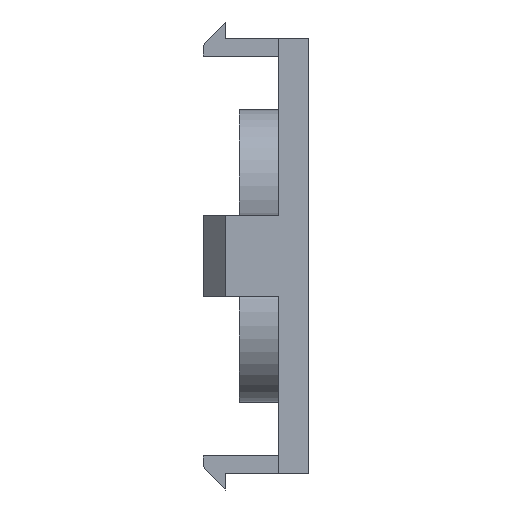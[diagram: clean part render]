
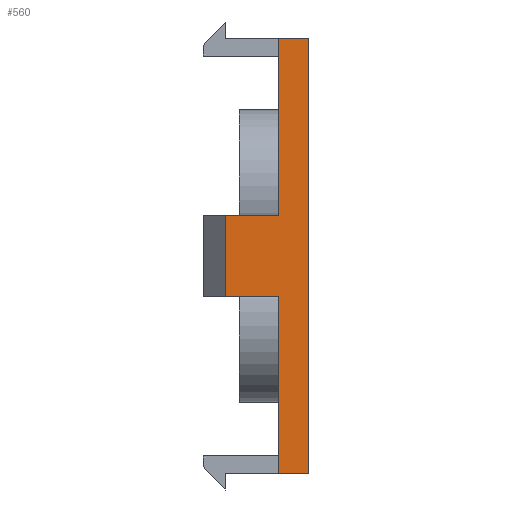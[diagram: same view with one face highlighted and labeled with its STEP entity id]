
A CAD part, left-side view. The second image highlights one B-rep face of the part: STEP entity #560.
In plain terms, the highlighted planar face has unit normal (-1, 0, 0).
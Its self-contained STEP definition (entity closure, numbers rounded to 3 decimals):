
#40 = ORIENTED_EDGE ( 'NONE', *, *, #375, .F. ) ;
#48 = CARTESIAN_POINT ( 'NONE',  ( -24.71, 5.65, -2.75 ) ) ;
#117 = DIRECTION ( 'NONE',  ( 0., 0., -1. ) ) ;
#133 = CARTESIAN_POINT ( 'NONE',  ( -24.71, 2.05, -2.75 ) ) ;
#162 = VERTEX_POINT ( 'NONE', #875 ) ;
#196 = CARTESIAN_POINT ( 'NONE',  ( -24.71, 5.65, 2.75 ) ) ;
#261 = EDGE_LOOP ( 'NONE', ( #2216, #2242, #277, #886, #491, #519, #40, #266 ) ) ;
#266 = ORIENTED_EDGE ( 'NONE', *, *, #776, .F. ) ;
#275 = VERTEX_POINT ( 'NONE', #133 ) ;
#277 = ORIENTED_EDGE ( 'NONE', *, *, #841, .T. ) ;
#282 = VECTOR ( 'NONE', #1437, 1000. ) ;
#292 = VERTEX_POINT ( 'NONE', #48 ) ;
#347 = EDGE_CURVE ( 'NONE', #1155, #987, #1823, .T. ) ;
#375 = EDGE_CURVE ( 'NONE', #162, #1043, #799, .T. ) ;
#415 = LINE ( 'NONE', #1429, #282 ) ;
#434 = CARTESIAN_POINT ( 'NONE',  ( -24.71, 2.05, -14.7 ) ) ;
#491 = ORIENTED_EDGE ( 'NONE', *, *, #347, .T. ) ;
#519 = ORIENTED_EDGE ( 'NONE', *, *, #1497, .T. ) ;
#560 = ADVANCED_FACE ( 'NONE', ( #2074 ), #2323, .F. ) ;
#662 = VECTOR ( 'NONE', #1056, 1000. ) ;
#707 = CARTESIAN_POINT ( 'NONE',  ( -24.71, 0., 14.7 ) ) ;
#741 = LINE ( 'NONE', #1592, #2303 ) ;
#745 = EDGE_CURVE ( 'NONE', #1155, #275, #2198, .T. ) ;
#767 = VECTOR ( 'NONE', #117, 1000. ) ;
#776 = EDGE_CURVE ( 'NONE', #1724, #162, #741, .T. ) ;
#799 = LINE ( 'NONE', #2005, #1761 ) ;
#841 = EDGE_CURVE ( 'NONE', #292, #275, #415, .T. ) ;
#845 = CARTESIAN_POINT ( 'NONE',  ( -24.71, 0., -14.7 ) ) ;
#875 = CARTESIAN_POINT ( 'NONE',  ( -24.71, 2.05, 14.7 ) ) ;
#886 = ORIENTED_EDGE ( 'NONE', *, *, #745, .F. ) ;
#891 = VERTEX_POINT ( 'NONE', #1222 ) ;
#982 = VECTOR ( 'NONE', #1726, 1000. ) ;
#987 = VERTEX_POINT ( 'NONE', #845 ) ;
#1043 = VERTEX_POINT ( 'NONE', #707 ) ;
#1056 = DIRECTION ( 'NONE',  ( 0., 0., 1. ) ) ;
#1151 = LINE ( 'NONE', #1294, #662 ) ;
#1155 = VERTEX_POINT ( 'NONE', #434 ) ;
#1222 = CARTESIAN_POINT ( 'NONE',  ( -24.71, 5.65, 2.75 ) ) ;
#1294 = CARTESIAN_POINT ( 'NONE',  ( -24.71, 0., -14.7 ) ) ;
#1324 = VECTOR ( 'NONE', #2118, 1000. ) ;
#1348 = LINE ( 'NONE', #196, #767 ) ;
#1429 = CARTESIAN_POINT ( 'NONE',  ( -24.71, 7.15, -2.75 ) ) ;
#1437 = DIRECTION ( 'NONE',  ( 0., -1., 0. ) ) ;
#1497 = EDGE_CURVE ( 'NONE', #987, #1043, #1151, .T. ) ;
#1575 = DIRECTION ( 'NONE',  ( 0., 0., 1. ) ) ;
#1592 = CARTESIAN_POINT ( 'NONE',  ( -24.71, 2.05, -14.7 ) ) ;
#1658 = DIRECTION ( 'NONE',  ( 0., 0., 1. ) ) ;
#1682 = EDGE_CURVE ( 'NONE', #891, #292, #1348, .T. ) ;
#1707 = CARTESIAN_POINT ( 'NONE',  ( -24.71, 2.05, -14.7 ) ) ;
#1724 = VERTEX_POINT ( 'NONE', #2415 ) ;
#1726 = DIRECTION ( 'NONE',  ( 0., -1., 0. ) ) ;
#1735 = CARTESIAN_POINT ( 'NONE',  ( -24.71, 7.15, 2.75 ) ) ;
#1761 = VECTOR ( 'NONE', #1982, 1000. ) ;
#1803 = LINE ( 'NONE', #1735, #982 ) ;
#1823 = LINE ( 'NONE', #2321, #1324 ) ;
#1982 = DIRECTION ( 'NONE',  ( 0., -1., 0. ) ) ;
#2005 = CARTESIAN_POINT ( 'NONE',  ( -24.71, 2.05, 14.7 ) ) ;
#2074 = FACE_OUTER_BOUND ( 'NONE', #261, .T. ) ;
#2101 = EDGE_CURVE ( 'NONE', #891, #1724, #1803, .T. ) ;
#2118 = DIRECTION ( 'NONE',  ( 0., -1., 0. ) ) ;
#2130 = VECTOR ( 'NONE', #1658, 1000. ) ;
#2198 = LINE ( 'NONE', #1707, #2130 ) ;
#2216 = ORIENTED_EDGE ( 'NONE', *, *, #2101, .F. ) ;
#2242 = ORIENTED_EDGE ( 'NONE', *, *, #1682, .T. ) ;
#2296 = DIRECTION ( 'NONE',  ( 0., 0., -1. ) ) ;
#2297 = AXIS2_PLACEMENT_3D ( 'NONE', #2335, #2308, #2296 ) ;
#2303 = VECTOR ( 'NONE', #1575, 1000. ) ;
#2308 = DIRECTION ( 'NONE',  ( 1., 0., 0. ) ) ;
#2321 = CARTESIAN_POINT ( 'NONE',  ( -24.71, 2.05, -14.7 ) ) ;
#2323 = PLANE ( 'NONE',  #2297 ) ;
#2335 = CARTESIAN_POINT ( 'NONE',  ( -24.71, 2.05, -14.7 ) ) ;
#2415 = CARTESIAN_POINT ( 'NONE',  ( -24.71, 2.05, 2.75 ) ) ;
